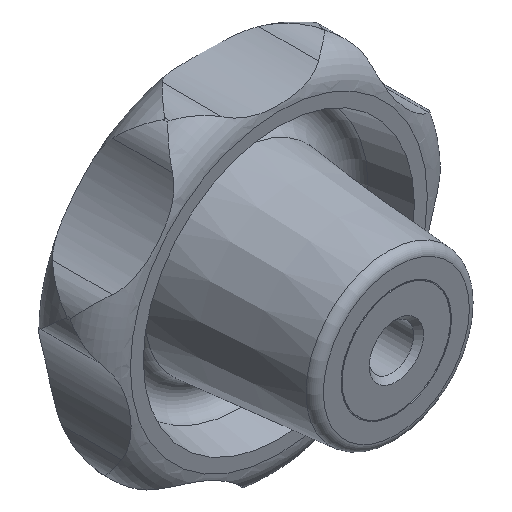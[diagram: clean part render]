
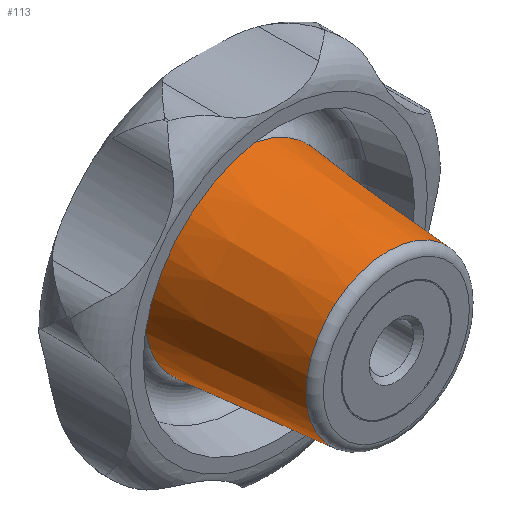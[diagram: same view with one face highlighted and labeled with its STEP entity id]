
A CAD part, isometric view. The second image highlights one B-rep face of the part: STEP entity #113.
In plain terms, the highlighted conical face has half-angle 5 degrees and reference radius 10.515 mm.
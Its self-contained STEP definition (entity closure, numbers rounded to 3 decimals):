
#113 = ADVANCED_FACE( '', ( #209, #210 ), #211, .T. );
#209 = FACE_BOUND( '', #313, .T. );
#210 = FACE_OUTER_BOUND( '', #314, .T. );
#211 = CONICAL_SURFACE( '', #315, 10.515, 0.087 );
#313 = EDGE_LOOP( '', ( #622 ) );
#314 = EDGE_LOOP( '', ( #623 ) );
#315 = AXIS2_PLACEMENT_3D( '', #624, #625, #626 );
#622 = ORIENTED_EDGE( '', *, *, #755, .F. );
#623 = ORIENTED_EDGE( '', *, *, #756, .T. );
#624 = CARTESIAN_POINT( '', ( 0., 17.358, 0. ) );
#625 = DIRECTION( '', ( 0., 1., 0. ) );
#626 = DIRECTION( '', ( 0., 0., 1. ) );
#755 = EDGE_CURVE( '', #920, #920, #921, .T. );
#756 = EDGE_CURVE( '', #922, #922, #923, .T. );
#920 = VERTEX_POINT( '', #1858 );
#921 = CIRCLE( '', #1859, 9.076 );
#922 = VERTEX_POINT( '', #1860 );
#923 = CIRCLE( '', #1861, 10.515 );
#1858 = CARTESIAN_POINT( '', ( 0., 0.913, -9.076 ) );
#1859 = AXIS2_PLACEMENT_3D( '', #1967, #1968, #1969 );
#1860 = CARTESIAN_POINT( '', ( 0., 17.358, -10.515 ) );
#1861 = AXIS2_PLACEMENT_3D( '', #1970, #1971, #1972 );
#1967 = CARTESIAN_POINT( '', ( 0., 0.913, 0. ) );
#1968 = DIRECTION( '', ( 0., -1., 0. ) );
#1969 = DIRECTION( '', ( 0., 0., -1. ) );
#1970 = CARTESIAN_POINT( '', ( 0., 17.358, 0. ) );
#1971 = DIRECTION( '', ( 0., -1., 0. ) );
#1972 = DIRECTION( '', ( 0., 0., -1. ) );
